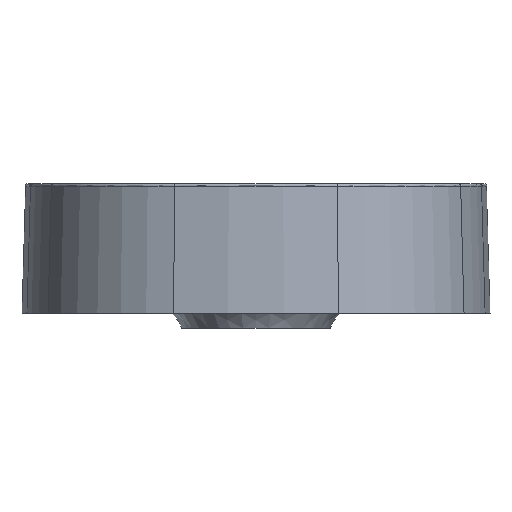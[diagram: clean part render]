
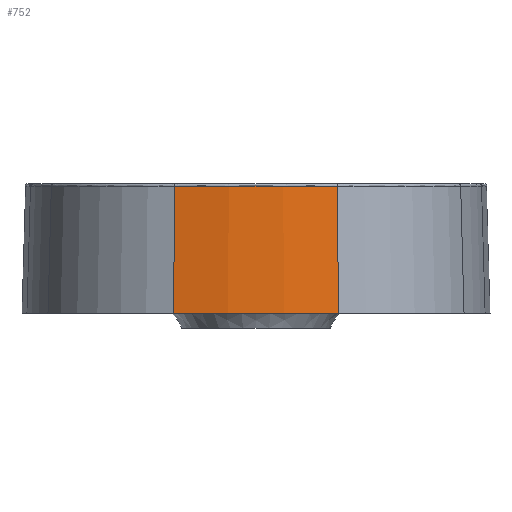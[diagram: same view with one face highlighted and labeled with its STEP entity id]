
A CAD part, left-side view. The second image highlights one B-rep face of the part: STEP entity #752.
In plain terms, the highlighted free-form (B-spline) face has degree [1, 2] with [2, 3] control points.
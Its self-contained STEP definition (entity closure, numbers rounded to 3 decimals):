
#580 = VERTEX_POINT('',#581);
#581 = CARTESIAN_POINT('',(-232.827,-66.685,
    0.));
#588 = EDGE_CURVE('',#589,#580,#591,.T.);
#589 = VERTEX_POINT('',#590);
#590 = CARTESIAN_POINT('',(-232.827,66.685,
    0.));
#591 = CIRCLE('',#592,282.296);
#592 = AXIS2_PLACEMENT_3D('',#593,#594,#595);
#593 = CARTESIAN_POINT('',(41.48,0.,
    0.));
#594 = DIRECTION('',(0.,0.,1.));
#595 = DIRECTION('',(-0.972,0.236,0.));
#752 = ADVANCED_FACE('',(#753),#779,.F.);
#753 = FACE_BOUND('',#754,.F.);
#754 = EDGE_LOOP('',(#755,#763,#764,#772));
#755 = ORIENTED_EDGE('',*,*,#756,.F.);
#756 = EDGE_CURVE('',#580,#757,#759,.T.);
#757 = VERTEX_POINT('',#758);
#758 = CARTESIAN_POINT('',(-229.965,-65.99,
    103.057));
#759 = LINE('',#760,#761);
#760 = CARTESIAN_POINT('',(-232.827,-66.685,
    0.));
#761 = VECTOR('',#762,1.);
#762 = DIRECTION('',(0.028,0.007,
    1.));
#763 = ORIENTED_EDGE('',*,*,#588,.F.);
#764 = ORIENTED_EDGE('',*,*,#765,.F.);
#765 = EDGE_CURVE('',#766,#589,#768,.T.);
#766 = VERTEX_POINT('',#767);
#767 = CARTESIAN_POINT('',(-229.965,65.99,
    103.057));
#768 = LINE('',#769,#770);
#769 = CARTESIAN_POINT('',(-229.965,65.99,
    103.057));
#770 = VECTOR('',#771,1.);
#771 = DIRECTION('',(-0.028,0.007,
    -1.));
#772 = ORIENTED_EDGE('',*,*,#773,.F.);
#773 = EDGE_CURVE('',#757,#766,#774,.T.);
#774 = CIRCLE('',#775,279.351);
#775 = AXIS2_PLACEMENT_3D('',#776,#777,#778);
#776 = CARTESIAN_POINT('',(41.48,0.,
    103.057));
#777 = DIRECTION('',(0.,0.,-1.));
#778 = DIRECTION('',(-0.972,0.236,0.));
#779 = ( BOUNDED_SURFACE() B_SPLINE_SURFACE(1,2,(
    (#780,#781,#782)
    ,(#783,#784,#785
)),.UNSPECIFIED.,.F.,.F.,.F.) B_SPLINE_SURFACE_WITH_KNOTS((2,2),(3,3),(
    -0.338,0.),(0.,0.477),
.PIECEWISE_BEZIER_KNOTS.) GEOMETRIC_REPRESENTATION_ITEM() 
RATIONAL_B_SPLINE_SURFACE((
    (1.,0.972,1.)
,(1.,0.972,1.))) REPRESENTATION_ITEM('') SURFACE() );
#780 = CARTESIAN_POINT('',(-232.827,66.685,
    0.));
#781 = CARTESIAN_POINT('',(-249.038,0.,
    0.));
#782 = CARTESIAN_POINT('',(-232.827,-66.685,
    0.));
#783 = CARTESIAN_POINT('',(-229.965,65.99,
    103.057));
#784 = CARTESIAN_POINT('',(-246.007,0.,
    103.057));
#785 = CARTESIAN_POINT('',(-229.965,-65.99,
    103.057));
